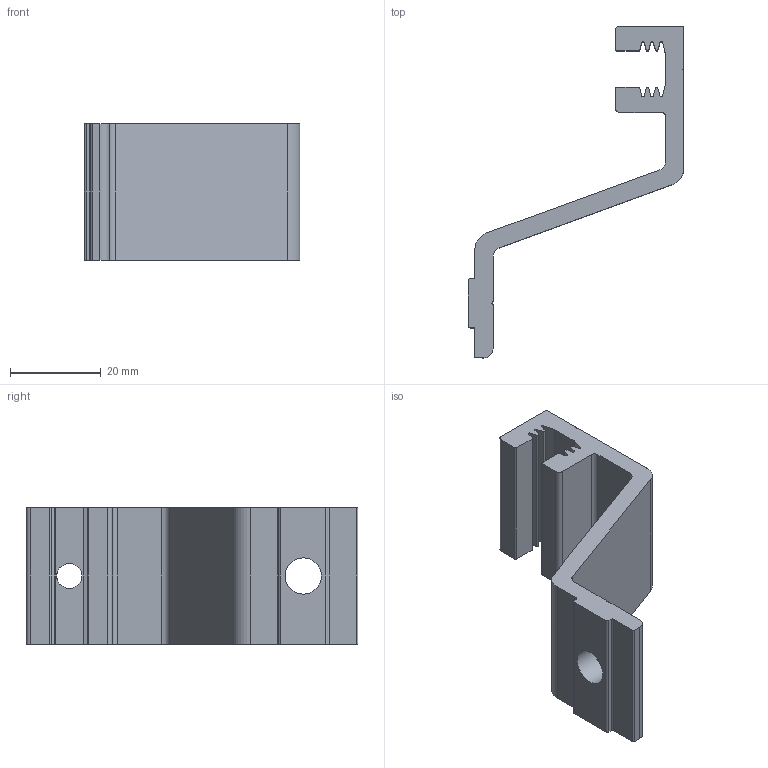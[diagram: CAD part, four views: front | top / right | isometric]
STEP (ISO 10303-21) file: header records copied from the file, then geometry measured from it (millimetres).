
FILE_DESCRIPTION(/* description */ ('RÄCKESHÅLLARE'),/* implementation_level */ '2;1');
FILE_NAME(/* name */ 'X:\Carryline\Katalog\STEP-Carryline Standarddelar\Serie 300\300-2165.stp',/* time_stamp */ '2018-03-06T08:48:12+01:00',/* author */ ('mathias'),/* organization */ ('CARRYLINE'),/* preprocessor_version */ 'ST-DEVELOPER v17',/* originating_system */ 'Autodesk Inventor 2018',/* authorisation */ '');
FILE_SCHEMA (('AUTOMOTIVE_DESIGN { 1 0 10303 214 3 1 1 }'));
Length unit declared in the file: millimetre
Products named in the file (1): 300-2165
Bounding box: 47.5 x 73 x 30 mm (x, y, z)
Volume: 15600.4 mm3; surface area: 9291 mm2
Topology: 1 solids, 1 shells, 81 faces, 243 edges, 162 vertices
Faces by surface type: plane 42, cylinder 39
Full cylindrical faces by diameter (mm): 5.5 x1, 8 x1
Entity records: 2830 total; most frequent: CARTESIAN_POINT 527, ORIENTED_EDGE 486, DIRECTION 481, EDGE_CURVE 243, AXIS2_PLACEMENT_3D 164, VERTEX_POINT 162, LINE 153, VECTOR 153
